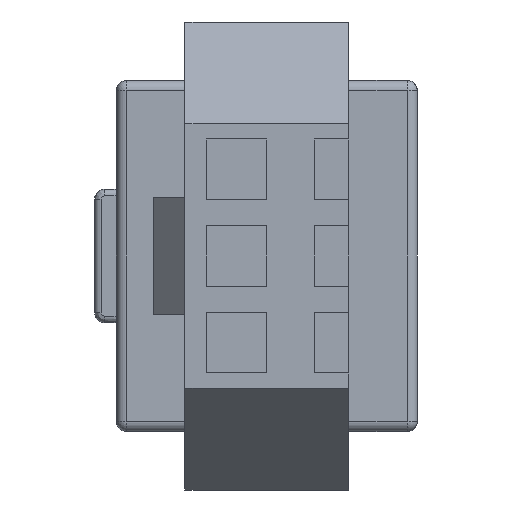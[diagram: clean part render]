
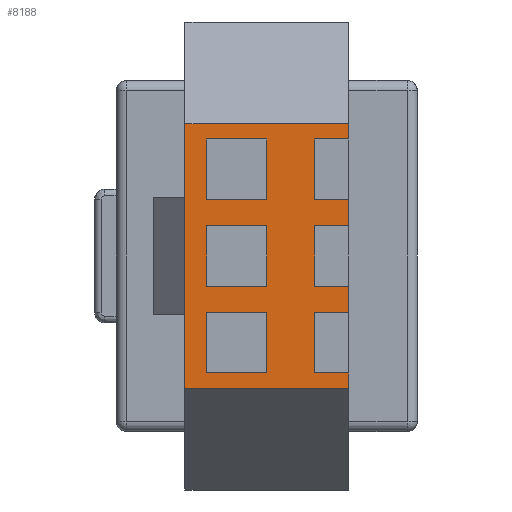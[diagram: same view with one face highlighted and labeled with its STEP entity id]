
A CAD part, left-side view. The second image highlights one B-rep face of the part: STEP entity #8188.
In plain terms, the highlighted planar face has unit normal (-1, 0, 0) as drawn and (0, 0, 1) by its records, which use the part's own axes.
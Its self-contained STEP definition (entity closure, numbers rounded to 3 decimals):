
#6651=DIRECTION('',(0.,-1.,0.));
#6652=VECTOR('',#6651,1.8);
#6653=CARTESIAN_POINT('',(-3.5,1.8,12.1));
#6654=LINE('',#6653,#6652);
#6655=DIRECTION('',(1.,0.,0.));
#6656=VECTOR('',#6655,1.8);
#6657=CARTESIAN_POINT('',(-3.5,0.,12.1));
#6658=LINE('',#6657,#6656);
#6659=DIRECTION('',(0.,1.,0.));
#6660=VECTOR('',#6659,1.8);
#6661=CARTESIAN_POINT('',(-1.7,0.,12.1));
#6662=LINE('',#6661,#6660);
#6663=DIRECTION('',(-1.,0.,0.));
#6664=VECTOR('',#6663,1.8);
#6665=CARTESIAN_POINT('',(-1.7,1.8,12.1));
#6666=LINE('',#6665,#6664);
#6667=DIRECTION('',(0.,-1.,0.));
#6668=VECTOR('',#6667,1.8);
#6669=CARTESIAN_POINT('',(-0.9,1.8,12.1));
#6670=LINE('',#6669,#6668);
#6671=DIRECTION('',(1.,0.,0.));
#6672=VECTOR('',#6671,1.8);
#6673=CARTESIAN_POINT('',(-0.9,0.,12.1));
#6674=LINE('',#6673,#6672);
#6675=DIRECTION('',(0.,1.,0.));
#6676=VECTOR('',#6675,1.8);
#6677=CARTESIAN_POINT('',(0.9,0.,12.1));
#6678=LINE('',#6677,#6676);
#6679=DIRECTION('',(-1.,0.,0.));
#6680=VECTOR('',#6679,1.8);
#6681=CARTESIAN_POINT('',(0.9,1.8,12.1));
#6682=LINE('',#6681,#6680);
#6683=DIRECTION('',(0.,-1.,0.));
#6684=VECTOR('',#6683,1.8);
#6685=CARTESIAN_POINT('',(1.7,1.8,12.1));
#6686=LINE('',#6685,#6684);
#6687=DIRECTION('',(1.,0.,0.));
#6688=VECTOR('',#6687,1.8);
#6689=CARTESIAN_POINT('',(1.7,0.,12.1));
#6690=LINE('',#6689,#6688);
#6691=DIRECTION('',(0.,1.,0.));
#6692=VECTOR('',#6691,1.8);
#6693=CARTESIAN_POINT('',(3.5,0.,12.1));
#6694=LINE('',#6693,#6692);
#6695=DIRECTION('',(-1.,0.,0.));
#6696=VECTOR('',#6695,1.8);
#6697=CARTESIAN_POINT('',(3.5,1.8,12.1));
#6698=LINE('',#6697,#6696);
#6699=DIRECTION('',(0.,1.,0.));
#6700=VECTOR('',#6699,1.024);
#6701=CARTESIAN_POINT('',(-3.5,-2.45,12.1));
#6702=LINE('',#6701,#6700);
#6703=DIRECTION('',(1.,0.,0.));
#6704=VECTOR('',#6703,0.45);
#6705=CARTESIAN_POINT('',(-3.95,-2.45,12.1));
#6706=LINE('',#6705,#6704);
#6707=DIRECTION('',(0.,-1.,0.));
#6708=VECTOR('',#6707,4.9);
#6709=CARTESIAN_POINT('',(-3.95,2.45,12.1));
#6710=LINE('',#6709,#6708);
#6711=DIRECTION('',(-1.,0.,0.));
#6712=VECTOR('',#6711,2.2);
#6713=CARTESIAN_POINT('',(-1.75,2.45,12.1));
#6714=LINE('',#6713,#6712);
#6715=DIRECTION('',(1.,0.,0.));
#6716=VECTOR('',#6715,3.5);
#6717=CARTESIAN_POINT('',(-1.75,2.45,12.1));
#6718=LINE('',#6717,#6716);
#6719=DIRECTION('',(-1.,0.,0.));
#6720=VECTOR('',#6719,2.2);
#6721=CARTESIAN_POINT('',(3.95,2.45,12.1));
#6722=LINE('',#6721,#6720);
#6723=DIRECTION('',(0.,1.,0.));
#6724=VECTOR('',#6723,4.9);
#6725=CARTESIAN_POINT('',(3.95,-2.45,12.1));
#6726=LINE('',#6725,#6724);
#6727=DIRECTION('',(1.,0.,0.));
#6728=VECTOR('',#6727,0.45);
#6729=CARTESIAN_POINT('',(3.5,-2.45,12.1));
#6730=LINE('',#6729,#6728);
#6731=DIRECTION('',(0.,1.,0.));
#6732=VECTOR('',#6731,1.024);
#6733=CARTESIAN_POINT('',(3.5,-2.45,12.1));
#6734=LINE('',#6733,#6732);
#6735=DIRECTION('',(-1.,0.,0.));
#6736=VECTOR('',#6735,1.8);
#6737=CARTESIAN_POINT('',(3.5,-1.426,12.1));
#6738=LINE('',#6737,#6736);
#6739=DIRECTION('',(0.,1.,0.));
#6740=VECTOR('',#6739,1.024);
#6741=CARTESIAN_POINT('',(1.7,-2.45,12.1));
#6742=LINE('',#6741,#6740);
#6743=DIRECTION('',(1.,0.,0.));
#6744=VECTOR('',#6743,0.8);
#6745=CARTESIAN_POINT('',(0.9,-2.45,12.1));
#6746=LINE('',#6745,#6744);
#6747=DIRECTION('',(0.,1.,0.));
#6748=VECTOR('',#6747,1.024);
#6749=CARTESIAN_POINT('',(0.9,-2.45,12.1));
#6750=LINE('',#6749,#6748);
#6751=DIRECTION('',(-1.,0.,0.));
#6752=VECTOR('',#6751,1.8);
#6753=CARTESIAN_POINT('',(0.9,-1.426,12.1));
#6754=LINE('',#6753,#6752);
#6755=DIRECTION('',(0.,1.,0.));
#6756=VECTOR('',#6755,1.024);
#6757=CARTESIAN_POINT('',(-0.9,-2.45,12.1));
#6758=LINE('',#6757,#6756);
#6759=DIRECTION('',(1.,0.,0.));
#6760=VECTOR('',#6759,0.8);
#6761=CARTESIAN_POINT('',(-1.7,-2.45,12.1));
#6762=LINE('',#6761,#6760);
#6763=DIRECTION('',(0.,1.,0.));
#6764=VECTOR('',#6763,1.024);
#6765=CARTESIAN_POINT('',(-1.7,-2.45,12.1));
#6766=LINE('',#6765,#6764);
#6767=DIRECTION('',(-1.,0.,0.));
#6768=VECTOR('',#6767,1.8);
#6769=CARTESIAN_POINT('',(-1.7,-1.426,12.1));
#6770=LINE('',#6769,#6768);
#7795=CARTESIAN_POINT('',(-3.95,2.45,12.1));
#7796=CARTESIAN_POINT('',(-3.95,-2.45,12.1));
#7797=VERTEX_POINT('',#7795);
#7798=VERTEX_POINT('',#7796);
#7799=CARTESIAN_POINT('',(3.95,-2.45,12.1));
#7800=CARTESIAN_POINT('',(3.95,2.45,12.1));
#7801=VERTEX_POINT('',#7799);
#7802=VERTEX_POINT('',#7800);
#7823=CARTESIAN_POINT('',(-1.75,2.45,12.1));
#7824=CARTESIAN_POINT('',(1.75,2.45,12.1));
#7825=VERTEX_POINT('',#7823);
#7826=VERTEX_POINT('',#7824);
#7855=CARTESIAN_POINT('',(-3.5,1.8,12.1));
#7856=CARTESIAN_POINT('',(-3.5,0.,12.1));
#7857=VERTEX_POINT('',#7855);
#7858=VERTEX_POINT('',#7856);
#7859=CARTESIAN_POINT('',(-1.7,0.,12.1));
#7860=VERTEX_POINT('',#7859);
#7861=CARTESIAN_POINT('',(-1.7,1.8,12.1));
#7862=VERTEX_POINT('',#7861);
#7863=CARTESIAN_POINT('',(-0.9,1.8,12.1));
#7864=CARTESIAN_POINT('',(-0.9,0.,12.1));
#7865=VERTEX_POINT('',#7863);
#7866=VERTEX_POINT('',#7864);
#7867=CARTESIAN_POINT('',(0.9,0.,12.1));
#7868=VERTEX_POINT('',#7867);
#7869=CARTESIAN_POINT('',(0.9,1.8,12.1));
#7870=VERTEX_POINT('',#7869);
#7871=CARTESIAN_POINT('',(1.7,1.8,12.1));
#7872=CARTESIAN_POINT('',(1.7,0.,12.1));
#7873=VERTEX_POINT('',#7871);
#7874=VERTEX_POINT('',#7872);
#7875=CARTESIAN_POINT('',(3.5,0.,12.1));
#7876=VERTEX_POINT('',#7875);
#7877=CARTESIAN_POINT('',(3.5,1.8,12.1));
#7878=VERTEX_POINT('',#7877);
#7891=CARTESIAN_POINT('',(-3.5,-2.45,12.1));
#7892=CARTESIAN_POINT('',(-3.5,-1.426,12.1));
#7893=VERTEX_POINT('',#7891);
#7894=VERTEX_POINT('',#7892);
#7895=CARTESIAN_POINT('',(-1.7,-2.45,12.1));
#7896=CARTESIAN_POINT('',(-1.7,-1.426,12.1));
#7897=VERTEX_POINT('',#7895);
#7898=VERTEX_POINT('',#7896);
#7899=CARTESIAN_POINT('',(-0.9,-2.45,12.1));
#7900=CARTESIAN_POINT('',(-0.9,-1.426,12.1));
#7901=VERTEX_POINT('',#7899);
#7902=VERTEX_POINT('',#7900);
#7903=CARTESIAN_POINT('',(0.9,-2.45,12.1));
#7904=CARTESIAN_POINT('',(0.9,-1.426,12.1));
#7905=VERTEX_POINT('',#7903);
#7906=VERTEX_POINT('',#7904);
#7907=CARTESIAN_POINT('',(1.7,-2.45,12.1));
#7908=CARTESIAN_POINT('',(1.7,-1.426,12.1));
#7909=VERTEX_POINT('',#7907);
#7910=VERTEX_POINT('',#7908);
#7911=CARTESIAN_POINT('',(3.5,-2.45,12.1));
#7912=CARTESIAN_POINT('',(3.5,-1.426,12.1));
#7913=VERTEX_POINT('',#7911);
#7914=VERTEX_POINT('',#7912);
#8115=CARTESIAN_POINT('',(0.,0.,12.1));
#8116=DIRECTION('',(0.,0.,1.));
#8117=DIRECTION('',(1.,0.,0.));
#8118=AXIS2_PLACEMENT_3D('',#8115,#8116,#8117);
#8119=PLANE('',#8118);
#8121=ORIENTED_EDGE('',*,*,#8120,.F.);
#8123=ORIENTED_EDGE('',*,*,#8122,.F.);
#8125=ORIENTED_EDGE('',*,*,#8124,.F.);
#8127=ORIENTED_EDGE('',*,*,#8126,.F.);
#8129=ORIENTED_EDGE('',*,*,#8128,.T.);
#8131=ORIENTED_EDGE('',*,*,#8130,.F.);
#8133=ORIENTED_EDGE('',*,*,#8132,.F.);
#8135=ORIENTED_EDGE('',*,*,#8134,.F.);
#8137=ORIENTED_EDGE('',*,*,#8136,.T.);
#8139=ORIENTED_EDGE('',*,*,#8138,.T.);
#8141=ORIENTED_EDGE('',*,*,#8140,.F.);
#8143=ORIENTED_EDGE('',*,*,#8142,.F.);
#8145=ORIENTED_EDGE('',*,*,#8144,.T.);
#8147=ORIENTED_EDGE('',*,*,#8146,.T.);
#8149=ORIENTED_EDGE('',*,*,#8148,.F.);
#8151=ORIENTED_EDGE('',*,*,#8150,.F.);
#8153=ORIENTED_EDGE('',*,*,#8152,.T.);
#8155=ORIENTED_EDGE('',*,*,#8154,.T.);
#8156=EDGE_LOOP('',(#8121,#8123,#8125,#8127,#8129,#8131,#8133,#8135,#8137,#8139,
#8141,#8143,#8145,#8147,#8149,#8151,#8153,#8155));
#8157=FACE_OUTER_BOUND('',#8156,.F.);
#8159=ORIENTED_EDGE('',*,*,#8158,.T.);
#8161=ORIENTED_EDGE('',*,*,#8160,.T.);
#8163=ORIENTED_EDGE('',*,*,#8162,.T.);
#8165=ORIENTED_EDGE('',*,*,#8164,.T.);
#8166=EDGE_LOOP('',(#8159,#8161,#8163,#8165));
#8167=FACE_BOUND('',#8166,.F.);
#8169=ORIENTED_EDGE('',*,*,#8168,.T.);
#8171=ORIENTED_EDGE('',*,*,#8170,.T.);
#8173=ORIENTED_EDGE('',*,*,#8172,.T.);
#8175=ORIENTED_EDGE('',*,*,#8174,.T.);
#8176=EDGE_LOOP('',(#8169,#8171,#8173,#8175));
#8177=FACE_BOUND('',#8176,.F.);
#8179=ORIENTED_EDGE('',*,*,#8178,.T.);
#8181=ORIENTED_EDGE('',*,*,#8180,.T.);
#8183=ORIENTED_EDGE('',*,*,#8182,.T.);
#8185=ORIENTED_EDGE('',*,*,#8184,.T.);
#8186=EDGE_LOOP('',(#8179,#8181,#8183,#8185));
#8187=FACE_BOUND('',#8186,.F.);
#8120=EDGE_CURVE('',#7893,#7894,#6702,.T.);
#8122=EDGE_CURVE('',#7798,#7893,#6706,.T.);
#8124=EDGE_CURVE('',#7797,#7798,#6710,.T.);
#8126=EDGE_CURVE('',#7825,#7797,#6714,.T.);
#8128=EDGE_CURVE('',#7825,#7826,#6718,.T.);
#8130=EDGE_CURVE('',#7802,#7826,#6722,.T.);
#8132=EDGE_CURVE('',#7801,#7802,#6726,.T.);
#8134=EDGE_CURVE('',#7913,#7801,#6730,.T.);
#8136=EDGE_CURVE('',#7913,#7914,#6734,.T.);
#8138=EDGE_CURVE('',#7914,#7910,#6738,.T.);
#8140=EDGE_CURVE('',#7909,#7910,#6742,.T.);
#8142=EDGE_CURVE('',#7905,#7909,#6746,.T.);
#8144=EDGE_CURVE('',#7905,#7906,#6750,.T.);
#8146=EDGE_CURVE('',#7906,#7902,#6754,.T.);
#8148=EDGE_CURVE('',#7901,#7902,#6758,.T.);
#8150=EDGE_CURVE('',#7897,#7901,#6762,.T.);
#8152=EDGE_CURVE('',#7897,#7898,#6766,.T.);
#8154=EDGE_CURVE('',#7898,#7894,#6770,.T.);
#8158=EDGE_CURVE('',#7865,#7866,#6670,.T.);
#8160=EDGE_CURVE('',#7866,#7868,#6674,.T.);
#8162=EDGE_CURVE('',#7868,#7870,#6678,.T.);
#8164=EDGE_CURVE('',#7870,#7865,#6682,.T.);
#8168=EDGE_CURVE('',#7873,#7874,#6686,.T.);
#8170=EDGE_CURVE('',#7874,#7876,#6690,.T.);
#8172=EDGE_CURVE('',#7876,#7878,#6694,.T.);
#8174=EDGE_CURVE('',#7878,#7873,#6698,.T.);
#8178=EDGE_CURVE('',#7857,#7858,#6654,.T.);
#8180=EDGE_CURVE('',#7858,#7860,#6658,.T.);
#8182=EDGE_CURVE('',#7860,#7862,#6662,.T.);
#8184=EDGE_CURVE('',#7862,#7857,#6666,.T.);
#8188=ADVANCED_FACE('',(#8157,#8167,#8177,#8187),#8119,.T.);
